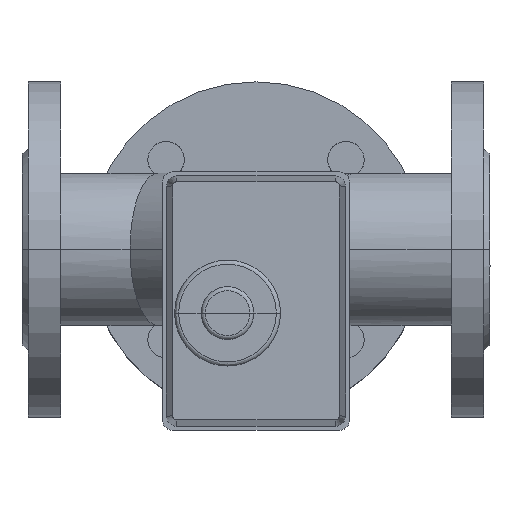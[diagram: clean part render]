
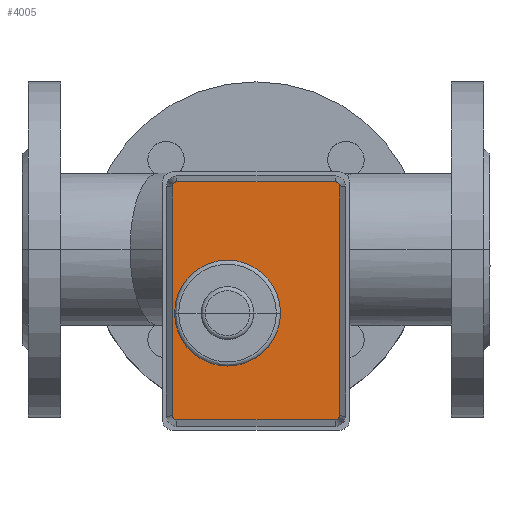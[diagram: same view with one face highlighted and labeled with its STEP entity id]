
A CAD part, top view. The second image highlights one B-rep face of the part: STEP entity #4005.
In plain terms, the highlighted planar face has unit normal (0, 0, 1).
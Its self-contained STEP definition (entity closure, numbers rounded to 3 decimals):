
#390=LINE('',#7203,#620);
#391=LINE('',#7207,#621);
#392=LINE('',#7211,#622);
#393=LINE('',#7214,#623);
#620=VECTOR('',#5660,304.8);
#621=VECTOR('',#5663,304.8);
#622=VECTOR('',#5666,304.8);
#623=VECTOR('',#5669,304.8);
#1013=FACE_OUTER_BOUND('',#1295,.T.);
#1295=EDGE_LOOP('',(#3316,#3317,#3318,#3319,#3320,#3321,#3322,#3323));
#1572=CIRCLE('',#4500,2.);
#1573=CIRCLE('',#4501,2.);
#1574=CIRCLE('',#4502,2.);
#1575=CIRCLE('',#4503,2.);
#1892=VERTEX_POINT('',#7199);
#1893=VERTEX_POINT('',#7200);
#1894=VERTEX_POINT('',#7202);
#1895=VERTEX_POINT('',#7204);
#1896=VERTEX_POINT('',#7206);
#1897=VERTEX_POINT('',#7208);
#1898=VERTEX_POINT('',#7210);
#1899=VERTEX_POINT('',#7212);
#2376=EDGE_CURVE('',#1892,#1893,#1572,.T.);
#2377=EDGE_CURVE('',#1893,#1894,#390,.T.);
#2378=EDGE_CURVE('',#1894,#1895,#1573,.T.);
#2379=EDGE_CURVE('',#1895,#1896,#391,.T.);
#2380=EDGE_CURVE('',#1896,#1897,#1574,.T.);
#2381=EDGE_CURVE('',#1897,#1898,#392,.T.);
#2382=EDGE_CURVE('',#1898,#1899,#1575,.T.);
#2383=EDGE_CURVE('',#1899,#1892,#393,.T.);
#3316=ORIENTED_EDGE('',*,*,#2376,.T.);
#3317=ORIENTED_EDGE('',*,*,#2377,.T.);
#3318=ORIENTED_EDGE('',*,*,#2378,.T.);
#3319=ORIENTED_EDGE('',*,*,#2379,.T.);
#3320=ORIENTED_EDGE('',*,*,#2380,.T.);
#3321=ORIENTED_EDGE('',*,*,#2381,.T.);
#3322=ORIENTED_EDGE('',*,*,#2382,.T.);
#3323=ORIENTED_EDGE('',*,*,#2383,.T.);
#3549=PLANE('',#4499);
#4005=ADVANCED_FACE('',(#1013),#3549,.T.);
#4499=AXIS2_PLACEMENT_3D('',#7198,#5656,#5657);
#4500=AXIS2_PLACEMENT_3D('',#7201,#5658,#5659);
#4501=AXIS2_PLACEMENT_3D('',#7205,#5661,#5662);
#4502=AXIS2_PLACEMENT_3D('',#7209,#5664,#5665);
#4503=AXIS2_PLACEMENT_3D('',#7213,#5667,#5668);
#5656=DIRECTION('center_axis',(0.,0.,1.));
#5657=DIRECTION('ref_axis',(0.,1.,0.));
#5658=DIRECTION('center_axis',(0.,0.,1.));
#5659=DIRECTION('ref_axis',(0.,-1.,0.));
#5660=DIRECTION('',(1.,0.,0.));
#5661=DIRECTION('center_axis',(0.,0.,
1.));
#5662=DIRECTION('ref_axis',(1.,0.,0.));
#5663=DIRECTION('',(0.,1.,0.));
#5664=DIRECTION('center_axis',(0.,0.,1.));
#5665=DIRECTION('ref_axis',(0.,1.,0.));
#5666=DIRECTION('',(-1.,0.,0.));
#5667=DIRECTION('center_axis',(0.,0.,1.));
#5668=DIRECTION('ref_axis',(-1.,0.,0.));
#5669=DIRECTION('',(0.,-1.,0.));
#7198=CARTESIAN_POINT('Origin',(-26.001,0.,
297.991));
#7199=CARTESIAN_POINT('',(-84.509,-39.,297.991));
#7200=CARTESIAN_POINT('',(-82.509,-41.,297.991));
#7201=CARTESIAN_POINT('Origin',(-82.509,-39.,297.991));
#7202=CARTESIAN_POINT('',(30.508,-41.,297.991));
#7203=CARTESIAN_POINT('',(30.508,-41.,297.991));
#7204=CARTESIAN_POINT('',(32.508,-39.,297.991));
#7205=CARTESIAN_POINT('Origin',(30.508,-39.,297.991));
#7206=CARTESIAN_POINT('',(32.508,39.,297.991));
#7207=CARTESIAN_POINT('',(32.508,39.,297.991));
#7208=CARTESIAN_POINT('',(30.508,41.,297.991));
#7209=CARTESIAN_POINT('Origin',(30.508,39.,297.991));
#7210=CARTESIAN_POINT('',(-82.509,41.,297.991));
#7211=CARTESIAN_POINT('',(-82.509,41.,297.991));
#7212=CARTESIAN_POINT('',(-84.509,39.,297.991));
#7213=CARTESIAN_POINT('Origin',(-82.509,39.,297.991));
#7214=CARTESIAN_POINT('',(-84.509,-39.,297.991));
